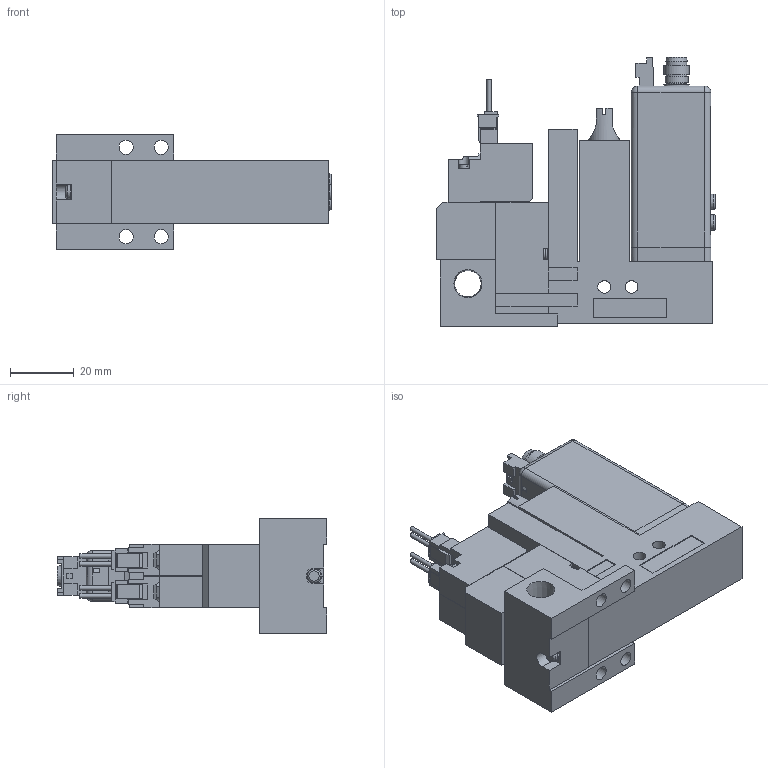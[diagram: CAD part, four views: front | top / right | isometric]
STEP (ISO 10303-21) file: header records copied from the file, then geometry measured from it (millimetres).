
FILE_DESCRIPTION(('STEP AP203'),'1');
FILE_NAME('22_22PL5BLR101.stp','2025-06-05T08:41:33',(' '),(' '),'Spatial InterOp 3D',' ',' ');
FILE_SCHEMA(('CONFIG_CONTROL_DESIGN'));
Length unit declared in the file: millimetre
Products named in the file (5): BMC22M※※※※22_22PL5BLR101; Solenoid valve B; Unit L; Base MR10R; MVS-202
Assembly tree (4 placements, depth 2):
  BMC22M※※※※22_22PL5BLR101
    Solenoid valve B
    Unit L
    Base MR10R
    MVS-202
Bounding box: 87.5 x 84.6 x 36 mm (x, y, z)
Volume: 101074.6 mm3; surface area: 31806.1 mm2
Topology: 4 solids, 8 shells, 765 faces, 1995 edges, 1305 vertices
Faces by surface type: plane 640, cylinder 97, cone 18, torus 6, sphere 4
Full cylindrical faces by diameter (mm): 1 x4, 1.4 x4, 1.5 x1, 2.5 x1, 3 x4, 3.5 x4, 3.6 x1, 4 x2, 4.134 x1, 4.5 x8, 4.8 x3, 5 x2, 5.2 x1, 5.8 x2, 6 x2, 6.5 x3, 6.6 x1, 7 x1, 7.2 x1, 7.9 x1, 8 x2, 8.279 x1
Entity records: 23007 total; most frequent: CARTESIAN_POINT 4151, ORIENTED_EDGE 3786, DIRECTION 3677, EDGE_CURVE 1893, LINE 1615, VECTOR 1615, VERTEX_POINT 1285, AXIS2_PLACEMENT_3D 1031
